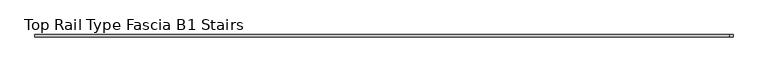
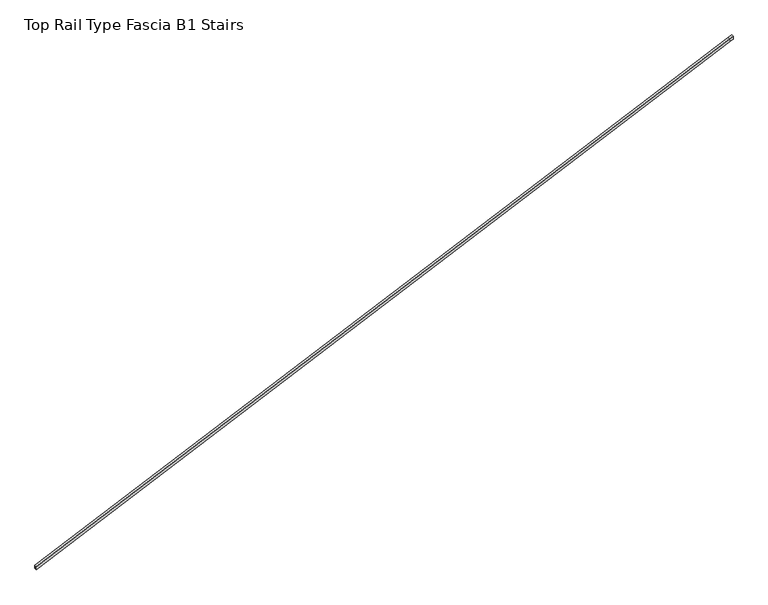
"""IFC4 building model written with IfcOpenShell, lengths in millimetres: proxy geometry, Top Rail Type Fascia B1 Stairs."""

from ifc_helpers import new_model, si_unit, origin, place, context, project, spatial, faceted_brep, source, transform, mapped, element, save


def top_rail_type_fascia_b1_stairs_fe1e7c44(model_context):
    return source(origin(), model_context, "Body", "Brep", [
        faceted_brep([(-13776.2360127, 23830.7196942, 1246.4266645), (-13776.2360127, 23852.9446942, 1246.4266645), (-13776.2360127, 23852.9446942, 1218.5240022), (-13776.2360127, 23848.1821942, 1218.5240022), (-13776.2360127, 23848.1821942, 1241.1949153), (-13776.2360127, 23835.4821942, 1241.1949153), (-13776.2360127, 23835.4821942, 1218.5240022), (-13776.2360127, 23830.7196942, 1218.5240022), (-7477.0360127, 23830.7196942, 4110.7843758), (-7477.0360127, 23852.9446942, 4110.7843758), (-7466.5221174, 23852.9446942, 4087.6625677), (-7466.5221174, 23848.1821942, 4087.6625677), (-7475.0646573, 23848.1821942, 4106.4490368), (-7475.0646573, 23835.4821942, 4106.4490368), (-7466.5221174, 23835.4821942, 4087.6625677), (-7466.5221174, 23830.7196942, 4087.6625677), (-7440.275569, 23830.7196942, 4127.5), (-7440.275569, 23830.7196942, 4099.5973377), (-7440.275569, 23835.4821942, 4099.5973377), (-7440.275569, 23835.4821942, 4122.2682508), (-7440.275569, 23848.1821942, 4122.2682508), (-7440.275569, 23848.1821942, 4099.5973377), (-7440.275569, 23852.9446942, 4099.5973377), (-7440.275569, 23852.9446942, 4127.5)], [[[0, 1, 2, 3, 4, 5, 6, 7]], [[1, 0, 8, 9]], [[2, 1, 9, 10]], [[3, 2, 10, 11]], [[4, 3, 11, 12]], [[5, 4, 12, 13]], [[6, 5, 13, 14]], [[7, 6, 14, 15]], [[0, 7, 15, 8]], [[16, 17, 18, 19, 20, 21, 22, 23]], [[9, 8, 16, 23]], [[10, 9, 23, 22]], [[11, 10, 22, 21]], [[12, 11, 21, 20]], [[13, 12, 20, 19]], [[14, 13, 19, 18]], [[15, 14, 18, 17]], [[8, 15, 17, 16]]]),
    ])


if __name__ == "__main__":
    model = new_model("IFC4")
    model_context = context("Model", 3, world=origin())
    ifc_project = project(units=[si_unit("LENGTHUNIT", "METRE", prefix="MILLI")], contexts=[model_context])
    site = spatial("IfcSite", under=ifc_project)
    building = spatial("IfcBuilding", under=site)
    placement = place(None, origin())
    top_rail_type_fascia_b1_stairs_shape = top_rail_type_fascia_b1_stairs_fe1e7c44(model_context)
    element("IfcBuildingElementProxy", 1, Name="Top Rail Type Fascia B1 Stairs", ObjectType="Top Rail Type Fascia B1 Stairs", at=placement, inside=building, context=model_context, shape_type="MappedRepresentation", body=[
        mapped(top_rail_type_fascia_b1_stairs_shape, transform((0.0, 0.0, 0.0), x_axis=(1.0, 0.0, 0.0), y_axis=(0.0, 1.0, 0.0), z_axis=(0.0, 0.0, 1.0))),
    ])
    save(model, "model.ifc")
